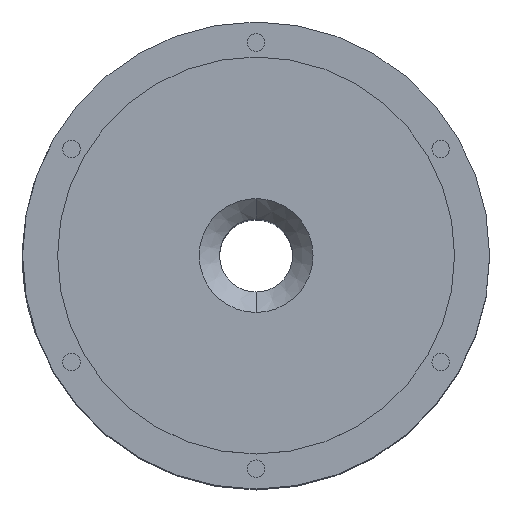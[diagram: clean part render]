
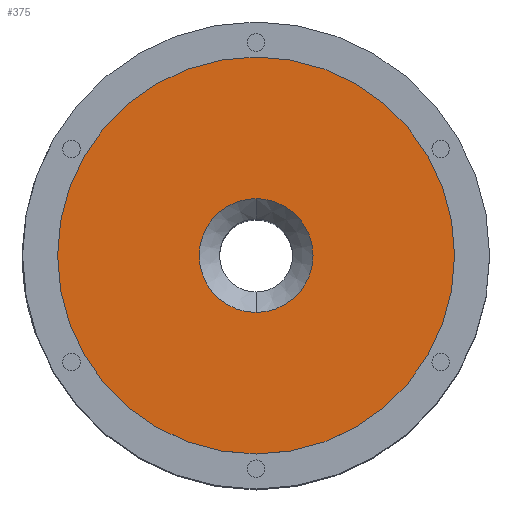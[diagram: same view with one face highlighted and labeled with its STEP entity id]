
A CAD part, top view. The second image highlights one B-rep face of the part: STEP entity #375.
In plain terms, the highlighted planar face has unit normal (0, 0, 1).
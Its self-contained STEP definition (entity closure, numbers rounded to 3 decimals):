
#308 = ORIENTED_EDGE ( 'NONE', *, *, #5932, .T. ) ;
#328 = EDGE_LOOP ( 'NONE', ( #308, #377 ) ) ;
#373 = EDGE_CURVE ( 'NONE', #1628, #1516, #2447, .T. ) ;
#374 = EDGE_CURVE ( 'NONE', #5939, #5915, #2455, .T. ) ;
#375 = ADVANCED_FACE ( 'NONE', ( #2454, #2467 ), #2429, .T. ) ;
#376 = ORIENTED_EDGE ( 'NONE', *, *, #373, .F. ) ;
#377 = ORIENTED_EDGE ( 'NONE', *, *, #374, .T. ) ;
#378 = EDGE_LOOP ( 'NONE', ( #379, #376 ) ) ;
#379 = ORIENTED_EDGE ( 'NONE', *, *, #1626, .F. ) ;
#1516 = VERTEX_POINT ( 'NONE', #4208 ) ;
#1626 = EDGE_CURVE ( 'NONE', #1516, #1628, #4361, .T. ) ;
#1628 = VERTEX_POINT ( 'NONE', #4350 ) ;
#2429 = PLANE ( 'NONE',  #2462 ) ;
#2444 = DIRECTION ( 'NONE',  ( 0., 0., -1. ) ) ;
#2445 = CARTESIAN_POINT ( 'NONE',  ( 0., 0., 194. ) ) ;
#2446 = AXIS2_PLACEMENT_3D ( 'NONE', #2445, #2444, #2511 ) ;
#2447 = CIRCLE ( 'NONE', #2446, 68. ) ;
#2448 = DIRECTION ( 'NONE',  ( 0., 0., 1. ) ) ;
#2449 = AXIS2_PLACEMENT_3D ( 'NONE', #2468, #2507, #2506 ) ;
#2454 = FACE_BOUND ( 'NONE', #328, .T. ) ;
#2455 = CIRCLE ( 'NONE', #2449, 19.5 ) ;
#2462 = AXIS2_PLACEMENT_3D ( 'NONE', #2504, #2448, #2508 ) ;
#2467 = FACE_OUTER_BOUND ( 'NONE', #378, .T. ) ;
#2468 = CARTESIAN_POINT ( 'NONE',  ( 0., 0., 194. ) ) ;
#2504 = CARTESIAN_POINT ( 'NONE',  ( 0., -12.5, 194. ) ) ;
#2506 = DIRECTION ( 'NONE',  ( 0., -1., 0. ) ) ;
#2507 = DIRECTION ( 'NONE',  ( 0., 0., -1. ) ) ;
#2508 = DIRECTION ( 'NONE',  ( 0., -1., 0. ) ) ;
#2511 = DIRECTION ( 'NONE',  ( 0., 1., 0. ) ) ;
#4208 = CARTESIAN_POINT ( 'NONE',  ( 0., 68., 194. ) ) ;
#4350 = CARTESIAN_POINT ( 'NONE',  ( 0., -68., 194. ) ) ;
#4351 = DIRECTION ( 'NONE',  ( 0., 1., 0. ) ) ;
#4352 = DIRECTION ( 'NONE',  ( 0., 0., -1. ) ) ;
#4353 = AXIS2_PLACEMENT_3D ( 'NONE', #4365, #4352, #4351 ) ;
#4361 = CIRCLE ( 'NONE', #4353, 68. ) ;
#4365 = CARTESIAN_POINT ( 'NONE',  ( 0., 0., 194. ) ) ;
#5116 = CARTESIAN_POINT ( 'NONE',  ( 0., -19.5, 194. ) ) ;
#5121 = CIRCLE ( 'NONE', #5143, 19.5 ) ;
#5130 = DIRECTION ( 'NONE',  ( 0., -1., 0. ) ) ;
#5131 = DIRECTION ( 'NONE',  ( 0., 0., -1. ) ) ;
#5132 = CARTESIAN_POINT ( 'NONE',  ( 0., 0., 194. ) ) ;
#5134 = CARTESIAN_POINT ( 'NONE',  ( 0., 19.5, 194. ) ) ;
#5143 = AXIS2_PLACEMENT_3D ( 'NONE', #5132, #5131, #5130 ) ;
#5915 = VERTEX_POINT ( 'NONE', #5116 ) ;
#5932 = EDGE_CURVE ( 'NONE', #5915, #5939, #5121, .T. ) ;
#5939 = VERTEX_POINT ( 'NONE', #5134 ) ;
